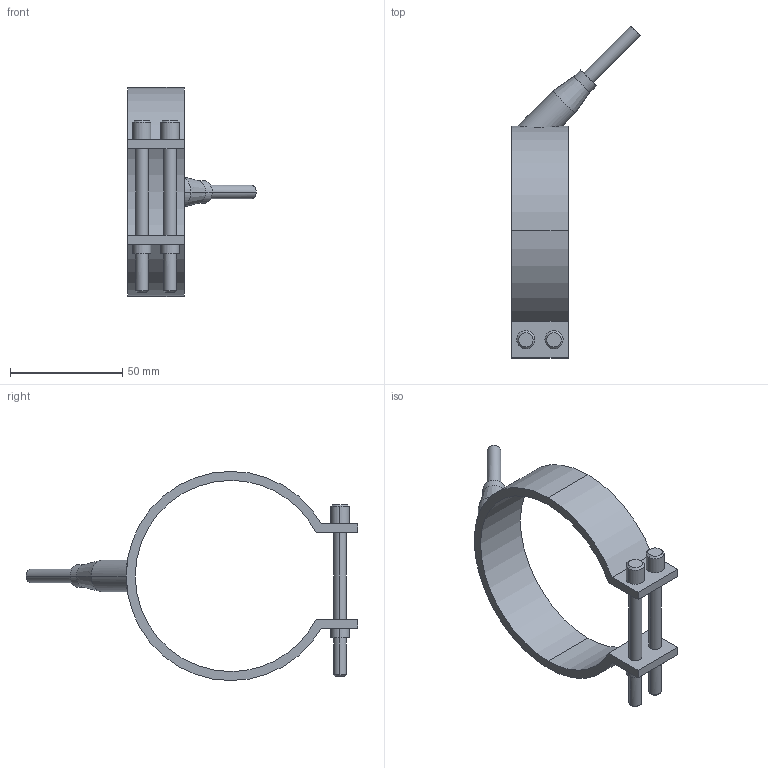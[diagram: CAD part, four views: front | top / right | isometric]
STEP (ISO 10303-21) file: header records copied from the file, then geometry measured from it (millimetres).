
FILE_DESCRIPTION(('CATIA V5 STEP Exchange'),'2;1');
FILE_NAME('C:\Users\Utente\Desktop\IO LAVORO\3D X SITO CF\X SITO\PLASTICA\RF1\29085025.stp','2021-03-29T18:06:53+00:00',('none'),('none'),'CATIA Version 5 Release 20 GA (IN-10)','CATIA V5 STEP AP203','none');
FILE_SCHEMA(('CONFIG_CONTROL_DESIGN'));
Length unit declared in the file: millimetre
Products named in the file (1): 29085025
Bounding box: 57.05 x 147.55 x 93 mm (x, y, z)
Volume: 35892 mm3; surface area: 20007.9 mm2
Topology: 1 solids, 1 shells, 54 faces, 123 edges, 79 vertices
Faces by surface type: cylinder 28, plane 16, cone 10
Entity records: 1746 total; most frequent: CARTESIAN_POINT 518, ORIENTED_EDGE 246, DIRECTION 211, EDGE_CURVE 123, AXIS2_PLACEMENT_3D 104, VERTEX_POINT 79, EDGE_LOOP 66, VECTOR 56
